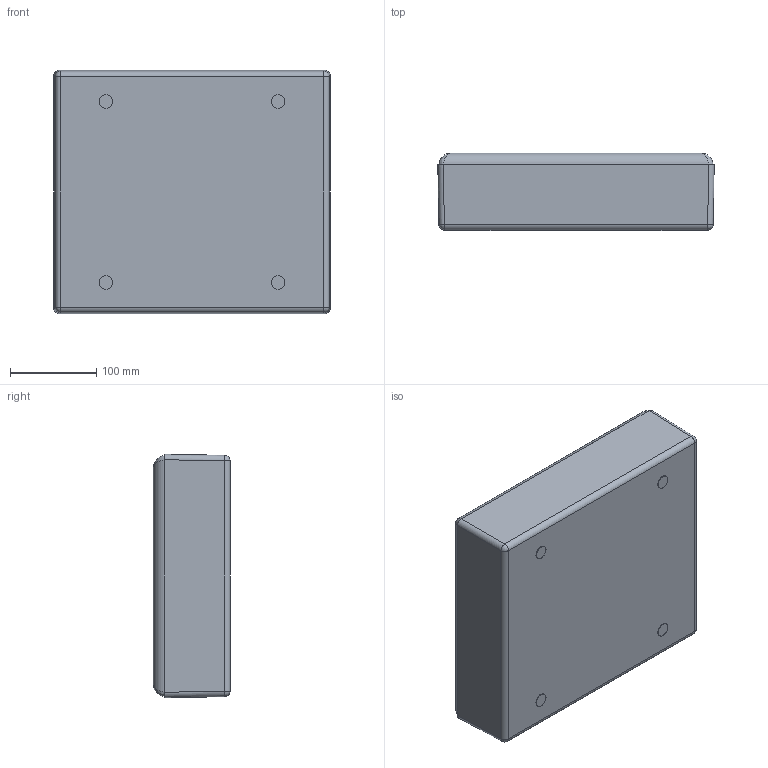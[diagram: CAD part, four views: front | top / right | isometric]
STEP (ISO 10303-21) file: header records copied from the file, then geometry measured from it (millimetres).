
FILE_DESCRIPTION((''),'2;1');
FILE_NAME('800T-16TZ_SW0001','2009-03-17T',('LTanasko'),('Rockwell Automation'),'PRO/ENGINEER BY PARAMETRIC TECHNOLOGY CORPORATION, 2005110','PRO/ENGINEER BY PARAMETRIC TECHNOLOGY CORPORATION, 2005110','');
FILE_SCHEMA(('CONFIG_CONTROL_DESIGN'));
Length unit declared in the file: inch
Products named in the file (1): 800T-16TZ_SW0001
Bounding box: 320.16 x 89.66 x 282.06 mm (x, y, z)
Surface area: 371997.7 mm2 (no closed solid volume)
Topology: 0 solids, 2 shells, 167 faces, 464 edges, 304 vertices
Faces by surface type: cylinder 84, plane 75, sphere 4, bspline 4
Entity records: 5533 total; most frequent: CARTESIAN_POINT 1215, DIRECTION 930, ORIENTED_EDGE 792, EDGE_CURVE 464, AXIS2_PLACEMENT_3D 319, VERTEX_POINT 304, VECTOR 292, LINE 292
